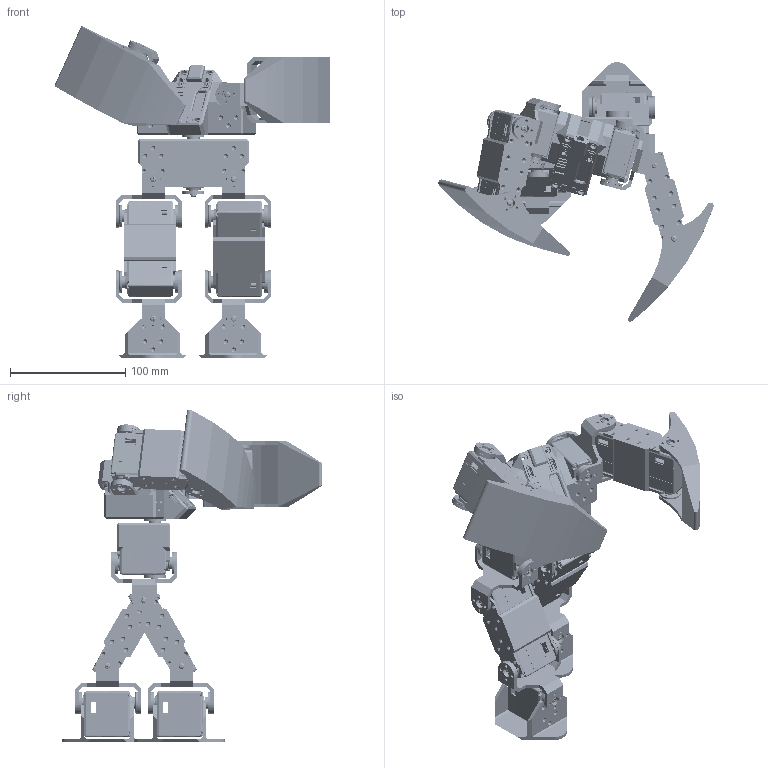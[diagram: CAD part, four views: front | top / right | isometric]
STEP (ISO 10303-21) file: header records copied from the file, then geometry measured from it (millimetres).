
FILE_DESCRIPTION(/* description */ (''),/* implementation_level */ '2;1');
FILE_NAME(/* name */ 'E:/云同步/我的坚果云/项目/SERVO DRIVER WITH ESP32/模型/DEV-H v6.step',/* time_stamp */ '2022-01-21T19:20:39+08:00',/* author */ (''),/* organization */ (''),/* preprocessor_version */ 'ST-DEVELOPER v18.1',/* originating_system */ 'Autodesk Translation Framework v10.10.0.1391',/* authorisation */ '');
FILE_SCHEMA (('AUTOMOTIVE_DESIGN { 1 0 10303 214 3 1 1 }'));
Length unit declared in the file: millimetre
Products named in the file (410): DEV-H; F; scs15_asm15kg20160222_asm; SCS15_ASM_ASM; scs15_asm15kg20160222_asm_1; SCS15_ASM_ASM_1; scs15_asm15kg20160222_asm_2; SCS15_ASM_ASM_2; G; scs15_asm15kg20160222_asm_3; SCS15_ASM_ASM_3; scs15_asm15kg20160222_asm_4; SCS15_ASM_ASM_4; A2; A2_1; A2_2; A2_3; scs15_asm15kg20160222_asm_5; SCS15_ASM_ASM_5; scs15_asm15kg20160222_asm_6; SCS15_ASM_ASM_6; scs15_asm15kg20160222_asm_7; SCS15_ASM_ASM_7; scs15_asm15kg20160222_asm_8; SCS15_ASM_ASM_8; B; B_1; B_2; B_3; scs15_asm15kg20160222_asm_9; SCS15_ASM_ASM_9; scs15_asm15kg20160222_asm_10; SCS15_ASM_ASM_10; scs15_asm15kg20160222_asm_11; SCS15_ASM_ASM_11; scs15_asm15kg20160222_asm_12; SCS15_ASM_ASM_12; A2_4; A2_5; scs15_asm15kg20160222_asm_13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
Assembly tree (755 placements, depth 5):
  DEV-H
    F
    scs15_asm15kg20160222_asm
      SCS15_ASM_ASM
        MSBR-12
        MSBR-11
        MSBR-10
        MSBR-9
        MSBR-8
        MSBR-7
        MSBR-6
        MSBR-5
        MSBR-4
        MSBR-3
        MSBR-2
        MSBR-1
    scs15_asm15kg20160222_asm_1
      SCS15_ASM_ASM_1
        MSBR-12
        MSBR-11
        MSBR-10
        MSBR-9
        MSBR-8
        MSBR-7
        MSBR-6
        MSBR-5
        MSBR-4
        MSBR-3
        MSBR-2
        MSBR-1
    scs15_asm15kg20160222_asm_2
      SCS15_ASM_ASM_2
        MSBR-12
        MSBR-11
        MSBR-10
        MSBR-9
        MSBR-8
        MSBR-7
        MSBR-6
        MSBR-5
        MSBR-4
        MSBR-3
        MSBR-2
        MSBR-1
    G
    scs15_asm15kg20160222_asm_3
      SCS15_ASM_ASM_3
        MSBR-12
        MSBR-11
        MSBR-10
        MSBR-9
        MSBR-8
        MSBR-7
        MSBR-6
        MSBR-5
        MSBR-4
        MSBR-3
        MSBR-2
        MSBR-1
    scs15_asm15kg20160222_asm_4
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Bounding box: 239.3 x 225.96 x 288.49 mm (x, y, z)
Volume: 740614.5 mm3; surface area: 484274.9 mm2
Topology: 449 solids, 506 shells, 24050 faces, 65184 edges, 42510 vertices
Faces by surface type: plane 10608, cylinder 8399, bspline 2979, cone 1472, torus 332, sphere 260
Full cylindrical faces by diameter (mm): 0.5 x2, 0.6 x4, 0.762 x2, 1 x6, 1.58 x60, 1.6 x181, 1.7 x3, 1.87 x1, 1.98 x43, 2 x193, 2.5 x607, 2.75 x4, 3 x30, 3.1 x4, 3.2 x19, 3.7 x2, 4 x60, 4.1 x15, 5 x60, 5.8 x4, 6 x30, 6.05 x30, 6.2 x16, 6.5 x15, 7 x15, 7.5 x15, 8 x29, 8.5 x15, 9.1 x15, 9.5 x15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
Entity records: 193726 total; most frequent: CARTESIAN_POINT 45778, DIRECTION 29819, ORIENTED_EDGE 29172, EDGE_CURVE 14586, LINE 9955, VECTOR 9955, AXIS2_PLACEMENT_3D 9932, VERTEX_POINT 9512
